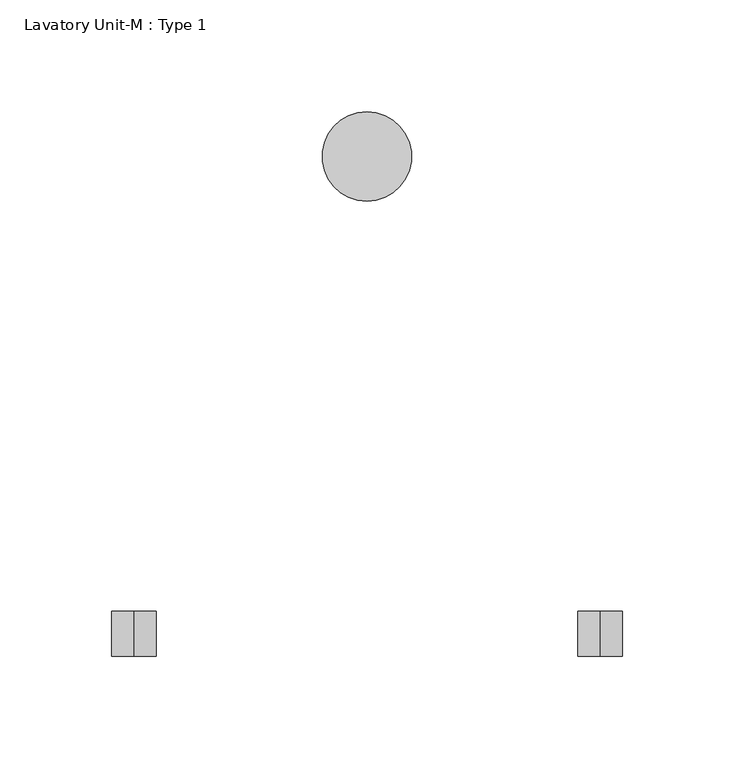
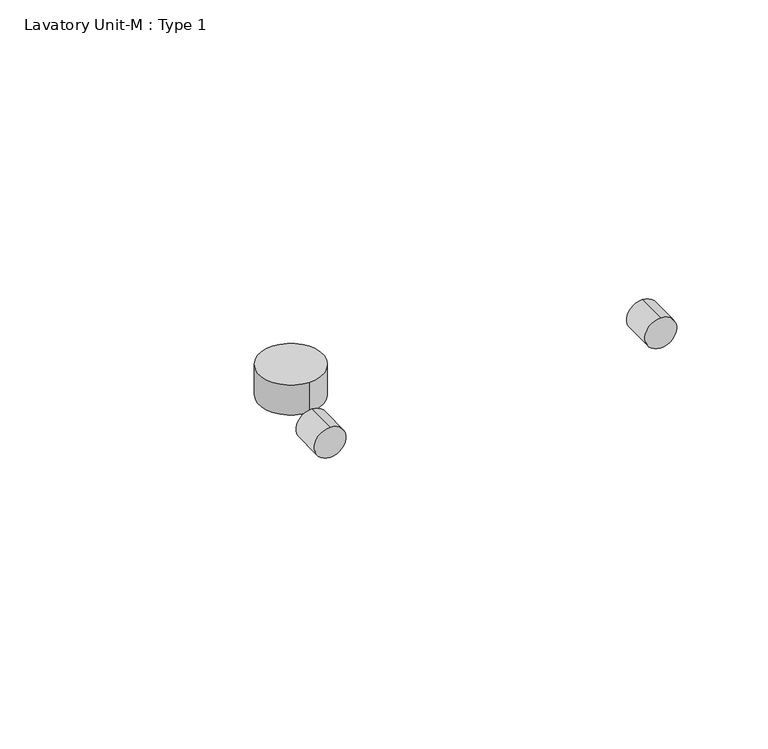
"""IFC4 building model written with IfcOpenShell, lengths in millimetres: flow terminal geometry, Lavatory Unit-M : Type 1."""

from ifc_helpers import new_model, si_unit, point, frame, frame_2d, origin, place, context, project, spatial, circle_curve, trimmed, segment, composite_curve, outline, extrude, source, transform, mapped, element, save


def lavatory_unit_m_type_1_c53317d3(model_context):
    return source(origin(), model_context, "Body", "SweptSolid", [
        extrude(outline(composite_curve([segment(trimmed(circle_curve(frame_2d((770.0, 20.6850794)), 10.0), [point((780.0, 20.6850794))], [point((760.0, 20.6850794))], False, "CARTESIAN"), True, "CONTINUOUS"), segment(trimmed(circle_curve(frame_2d((770.0, 20.6850794)), 10.0), [point((760.0, 20.6850794))], [point((780.0, 20.6850794))], False, "CARTESIAN"), True, "CONTINUOUS")], self_intersect=False)), frame((0.0, -20.0, 0.0), z_axis=(0.0, 1.0, 0.0), x_axis=(0.0, 0.0, 1.0)), (0.0, 0.0, 1.0), 20.0),
        extrude(outline(composite_curve([segment(trimmed(circle_curve(frame_2d((770.0, 229.3149206)), 10.0), [point((780.0, 229.3149206))], [point((760.0, 229.3149206))], False, "CARTESIAN"), True, "CONTINUOUS"), segment(trimmed(circle_curve(frame_2d((770.0, 229.3149206)), 10.0), [point((760.0, 229.3149206))], [point((780.0, 229.3149206))], False, "CARTESIAN"), True, "CONTINUOUS")], self_intersect=False)), frame((0.0, -20.0, 0.0), z_axis=(0.0, 1.0, 0.0), x_axis=(0.0, 0.0, 1.0)), (0.0, 0.0, 1.0), 20.0),
        extrude(outline(composite_curve([segment(trimmed(circle_curve(frame_2d((125.0, 203.5682112)), 20.0), [point((125.0, 223.5682112))], [point((125.0, 183.5682112))], False, "CARTESIAN"), True, "CONTINUOUS"), segment(trimmed(circle_curve(frame_2d((125.0, 203.5682112)), 20.0), [point((125.0, 183.5682112))], [point((125.0, 223.5682112))], False, "CARTESIAN"), True, "CONTINUOUS")], self_intersect=False)), frame((0.0, 0.0, 630.0), z_axis=(0.0, 0.0, 1.0), x_axis=(1.0, 0.0, 0.0)), (0.0, 0.0, 1.0), 20.0),
    ])


if __name__ == "__main__":
    model = new_model("IFC4")
    model_context = context("Model", 3, world=origin())
    ifc_project = project(units=[si_unit("LENGTHUNIT", "METRE", prefix="MILLI")], contexts=[model_context])
    site = spatial("IfcSite", under=ifc_project)
    building = spatial("IfcBuilding", under=site)
    placement = place(None, origin())
    lavatory_unit_m_type_1_shape = lavatory_unit_m_type_1_c53317d3(model_context)
    element("IfcFlowTerminal", 1, ObjectType="Lavatory Unit-M : Type 1", at=placement, inside=building, context=model_context, shape_type="MappedRepresentation", body=[
        mapped(lavatory_unit_m_type_1_shape, transform((0.0, 0.0, 0.0), x_axis=(1.0, 0.0, 0.0), y_axis=(0.0, 1.0, 0.0), z_axis=(0.0, 0.0, 1.0))),
    ])
    save(model, "model.ifc")
